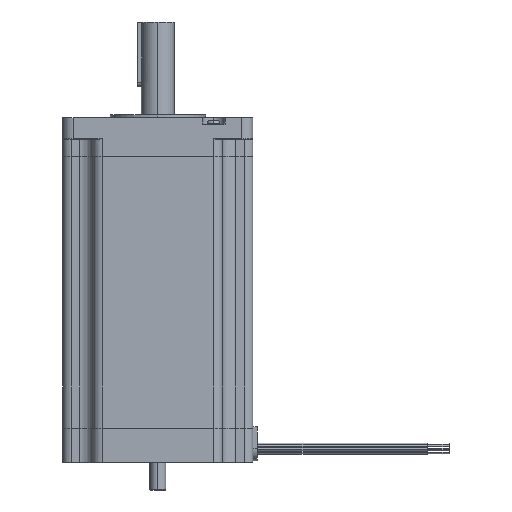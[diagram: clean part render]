
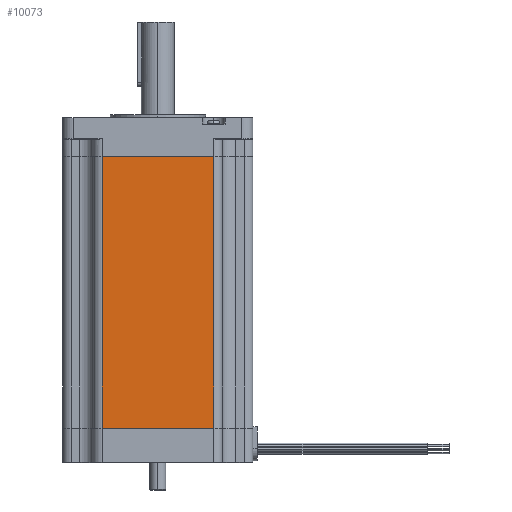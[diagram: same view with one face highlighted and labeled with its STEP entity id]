
A CAD part, left-side view. The second image highlights one B-rep face of the part: STEP entity #10073.
In plain terms, the highlighted planar face has unit normal (-1, 0, 0).
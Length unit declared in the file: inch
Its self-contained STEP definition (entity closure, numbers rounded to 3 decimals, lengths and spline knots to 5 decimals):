
#346 = ORIENTED_EDGE ( 'NONE', *, *, #9653, .T. ) ;
#7613 = CARTESIAN_POINT ( 'NONE',  ( -2.1765, -1.2775, -7.113 ) ) ;
#7664 = DIRECTION ( 'NONE',  ( 0., 0., 1. ) ) ;
#7665 = VECTOR ( 'NONE', #7664, 39.37008 ) ;
#7671 = CARTESIAN_POINT ( 'NONE',  ( -2.1765, -1.2775, -7.113 ) ) ;
#7672 = LINE ( 'NONE', #7671, #7665 ) ;
#7822 = CARTESIAN_POINT ( 'NONE',  ( -2.1765, 1.2775, -7.113 ) ) ;
#8590 = FACE_OUTER_BOUND ( 'NONE', #9627, .T. ) ;
#9581 = ORIENTED_EDGE ( 'NONE', *, *, #14498, .T. ) ;
#9627 = EDGE_LOOP ( 'NONE', ( #9581, #10124, #9655, #346 ) ) ;
#9635 = VERTEX_POINT ( 'NONE', #7613 ) ;
#9653 = EDGE_CURVE ( 'NONE', #9635, #14501, #7672, .T. ) ;
#9655 = ORIENTED_EDGE ( 'NONE', *, *, #10104, .F. ) ;
#9700 = VERTEX_POINT ( 'NONE', #7822 ) ;
#10073 = ADVANCED_FACE ( 'NONE', ( #8590 ), #10333, .F. ) ;
#10104 = EDGE_CURVE ( 'NONE', #9635, #9700, #10413, .T. ) ;
#10124 = ORIENTED_EDGE ( 'NONE', *, *, #10148, .F. ) ;
#10148 = EDGE_CURVE ( 'NONE', #9700, #14528, #10865, .T. ) ;
#10320 = DIRECTION ( 'NONE',  ( 0., 1., 0. ) ) ;
#10321 = DIRECTION ( 'NONE',  ( 1., 0., 0. ) ) ;
#10322 = CARTESIAN_POINT ( 'NONE',  ( -2.1765, -1.2775, -7.113 ) ) ;
#10323 = AXIS2_PLACEMENT_3D ( 'NONE', #10322, #10321, #10320 ) ;
#10333 = PLANE ( 'NONE',  #10323 ) ;
#10402 = DIRECTION ( 'NONE',  ( 0., 1., 0. ) ) ;
#10403 = VECTOR ( 'NONE', #10402, 39.37008 ) ;
#10404 = CARTESIAN_POINT ( 'NONE',  ( -2.1765, -1.2775, -7.113 ) ) ;
#10413 = LINE ( 'NONE', #10404, #10403 ) ;
#10860 = DIRECTION ( 'NONE',  ( 0., 0., 1. ) ) ;
#10862 = VECTOR ( 'NONE', #10860, 39.37008 ) ;
#10863 = CARTESIAN_POINT ( 'NONE',  ( -2.1765, 1.2775, -7.113 ) ) ;
#10865 = LINE ( 'NONE', #10863, #10862 ) ;
#14498 = EDGE_CURVE ( 'NONE', #14501, #14528, #17738, .T. ) ;
#14501 = VERTEX_POINT ( 'NONE', #17789 ) ;
#14528 = VERTEX_POINT ( 'NONE', #17799 ) ;
#17735 = DIRECTION ( 'NONE',  ( 0., 1., 0. ) ) ;
#17736 = VECTOR ( 'NONE', #17735, 39.37008 ) ;
#17737 = CARTESIAN_POINT ( 'NONE',  ( -2.1765, -1.2775, -0.9 ) ) ;
#17738 = LINE ( 'NONE', #17737, #17736 ) ;
#17789 = CARTESIAN_POINT ( 'NONE',  ( -2.1765, -1.2775, -0.9 ) ) ;
#17799 = CARTESIAN_POINT ( 'NONE',  ( -2.1765, 1.2775, -0.9 ) ) ;
